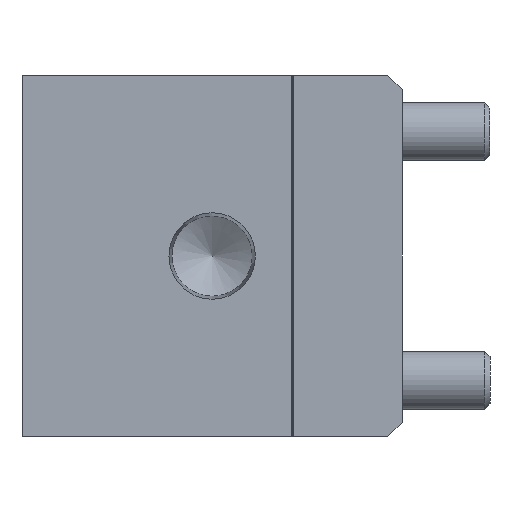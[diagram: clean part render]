
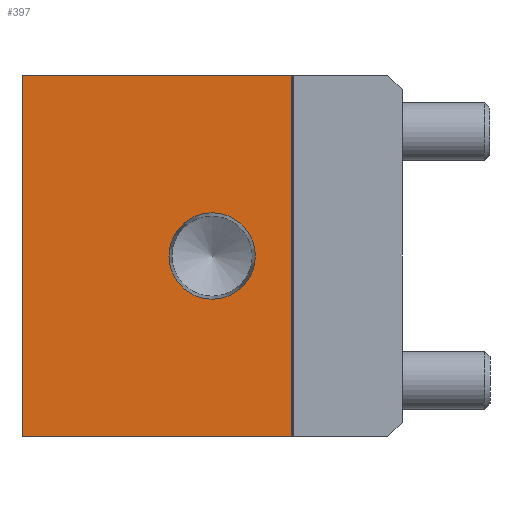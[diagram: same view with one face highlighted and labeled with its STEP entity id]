
A CAD part, left-side view. The second image highlights one B-rep face of the part: STEP entity #397.
In plain terms, the highlighted planar face has unit normal (-1, 0, 0).
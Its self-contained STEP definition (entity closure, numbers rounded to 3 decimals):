
#397 = ADVANCED_FACE( '', ( #946, #947 ), #948, .F. );
#946 = FACE_BOUND( '', #1771, .T. );
#947 = FACE_OUTER_BOUND( '', #1772, .T. );
#948 = PLANE( '', #1773 );
#1771 = EDGE_LOOP( '', ( #2644 ) );
#1772 = EDGE_LOOP( '', ( #2645, #2646, #2647, #2648 ) );
#1773 = AXIS2_PLACEMENT_3D( '', #2649, #2650, #2651 );
#2644 = ORIENTED_EDGE( '', *, *, #4451, .T. );
#2645 = ORIENTED_EDGE( '', *, *, #4452, .F. );
#2646 = ORIENTED_EDGE( '', *, *, #4453, .F. );
#2647 = ORIENTED_EDGE( '', *, *, #4454, .T. );
#2648 = ORIENTED_EDGE( '', *, *, #4449, .T. );
#2649 = CARTESIAN_POINT( '', ( 0., 52., 24.75 ) );
#2650 = DIRECTION( '', ( 1., 0., 0. ) );
#2651 = DIRECTION( '', ( 0., 0., -1. ) );
#4449 = EDGE_CURVE( '', #5186, #5145, #5189, .T. );
#4451 = EDGE_CURVE( '', #5191, #5191, #5192, .T. );
#4452 = EDGE_CURVE( '', #5193, #5145, #5194, .T. );
#4453 = EDGE_CURVE( '', #5195, #5193, #5196, .T. );
#4454 = EDGE_CURVE( '', #5195, #5186, #5197, .T. );
#5145 = VERTEX_POINT( '', #6142 );
#5186 = VERTEX_POINT( '', #6199 );
#5189 = LINE( '', #6204, #6205 );
#5191 = VERTEX_POINT( '', #6207 );
#5192 = CIRCLE( '', #6208, 5.91 );
#5193 = VERTEX_POINT( '', #6209 );
#5194 = LINE( '', #6210, #6211 );
#5195 = VERTEX_POINT( '', #6212 );
#5196 = LINE( '', #6213, #6214 );
#5197 = LINE( '', #6215, #6216 );
#6142 = CARTESIAN_POINT( '', ( 0., 15.1, -24.75 ) );
#6199 = CARTESIAN_POINT( '', ( 0., 52., -24.75 ) );
#6204 = CARTESIAN_POINT( '', ( 0., 52., -24.75 ) );
#6205 = VECTOR( '', #7409, 1000. );
#6207 = CARTESIAN_POINT( '', ( 0., 26., -5.91 ) );
#6208 = AXIS2_PLACEMENT_3D( '', #7410, #7411, #7412 );
#6209 = CARTESIAN_POINT( '', ( 0., 15.1, 24.75 ) );
#6210 = CARTESIAN_POINT( '', ( 0., 15.1, 24.75 ) );
#6211 = VECTOR( '', #7413, 1000. );
#6212 = CARTESIAN_POINT( '', ( 0., 52., 24.75 ) );
#6213 = CARTESIAN_POINT( '', ( 0., 52., 24.75 ) );
#6214 = VECTOR( '', #7414, 1000. );
#6215 = CARTESIAN_POINT( '', ( 0., 52., 24.75 ) );
#6216 = VECTOR( '', #7415, 1000. );
#7409 = DIRECTION( '', ( 0., -1., 0. ) );
#7410 = CARTESIAN_POINT( '', ( 0., 26., 0. ) );
#7411 = DIRECTION( '', ( 1., 0., 0. ) );
#7412 = DIRECTION( '', ( 0., 0., -1. ) );
#7413 = DIRECTION( '', ( 0., 0., -1. ) );
#7414 = DIRECTION( '', ( 0., -1., 0. ) );
#7415 = DIRECTION( '', ( 0., 0., -1. ) );
